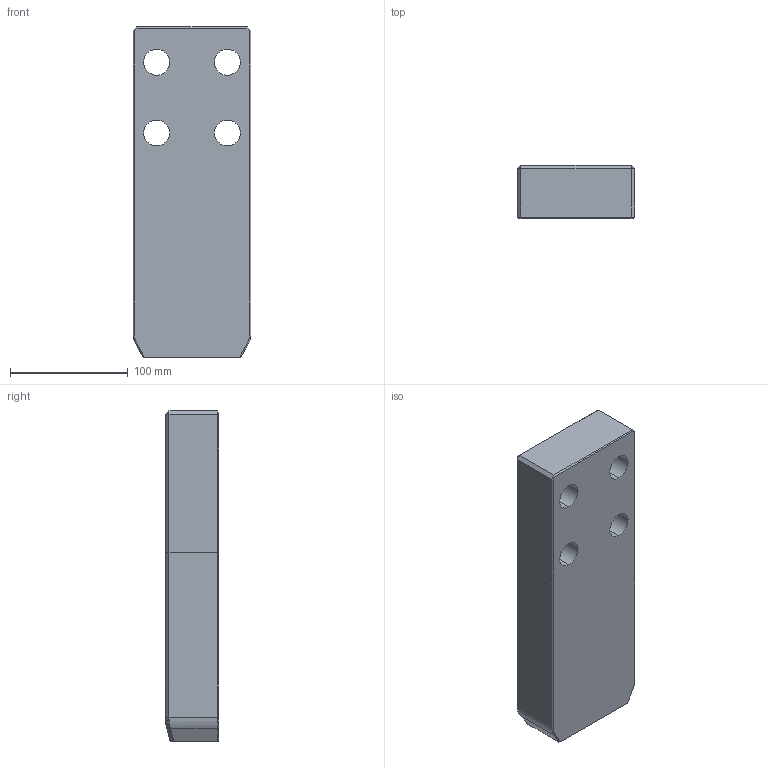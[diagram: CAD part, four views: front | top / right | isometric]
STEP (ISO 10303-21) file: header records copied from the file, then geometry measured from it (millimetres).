
FILE_DESCRIPTION((''),'2;1');
FILE_NAME('','2010-09-08T12:53:21+09:00',('misumi'),(''),'M/STEP i/f 1R2-14','CADmeister v5.1','');
FILE_SCHEMA(('AUTOMOTIVE_DESIGN'));
Length unit declared in the file: millimetre
Products named in the file (1): OGP100-280
Bounding box: 100 x 45 x 280 mm (x, y, z)
Volume: 1175730.1 mm3; surface area: 97778.3 mm2
Topology: 1 solids, 1 shells, 53 faces, 128 edges, 78 vertices
Faces by surface type: plane 32, cylinder 13, bspline 6, cone 2
Entity records: 1903 total; most frequent: CARTESIAN_POINT 598, ORIENTED_EDGE 248, DIRECTION 234, EDGE_CURVE 124, LINE 82, VECTOR 82, AXIS2_PLACEMENT_3D 76, VERTEX_POINT 74
